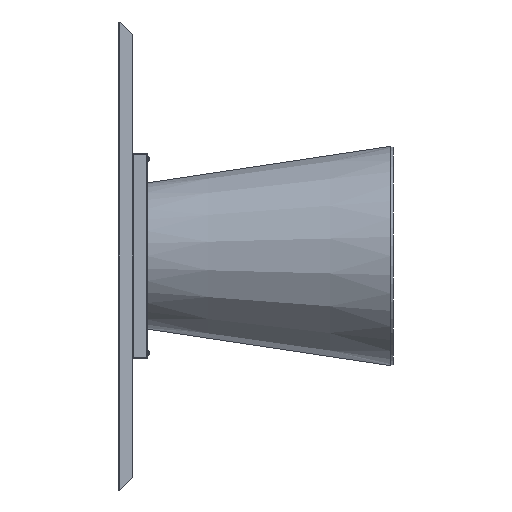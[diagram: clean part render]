
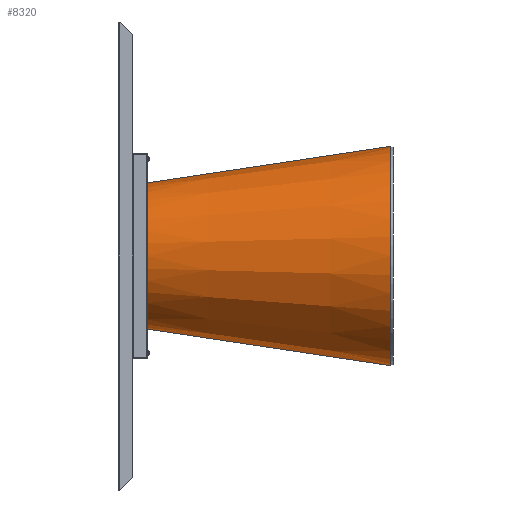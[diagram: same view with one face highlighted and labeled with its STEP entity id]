
A CAD part, left-side view. The second image highlights one B-rep face of the part: STEP entity #8320.
In plain terms, the highlighted conical face has half-angle 8.552 degrees and reference radius 200 mm.
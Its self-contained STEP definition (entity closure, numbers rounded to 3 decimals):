
#163 = DIRECTION ( 'NONE',  ( 0., 0., 1. ) ) ;
#338 = CARTESIAN_POINT ( 'NONE',  ( 0., 8., -300. ) ) ;
#664 = LINE ( 'NONE', #10996, #5974 ) ;
#1561 = ORIENTED_EDGE ( 'NONE', *, *, #9048, .F. ) ;
#1631 = AXIS2_PLACEMENT_3D ( 'NONE', #10192, #2269, #163 ) ;
#2269 = DIRECTION ( 'NONE',  ( 0., 1., 0. ) ) ;
#2490 = VERTEX_POINT ( 'NONE', #8685 ) ;
#2580 = EDGE_CURVE ( 'NONE', #9042, #2490, #5905, .T. ) ;
#2654 = DIRECTION ( 'NONE',  ( 0., 0., 1. ) ) ;
#2669 = EDGE_CURVE ( 'NONE', #5935, #2490, #3886, .T. ) ;
#3235 = AXIS2_PLACEMENT_3D ( 'NONE', #11798, #13069, #2654 ) ;
#3610 = DIRECTION ( 'NONE',  ( 0., -1., 0. ) ) ;
#3886 = LINE ( 'NONE', #9347, #13108 ) ;
#4524 = CARTESIAN_POINT ( 'NONE',  ( 0., 673., 200. ) ) ;
#4793 = EDGE_CURVE ( 'NONE', #8196, #9042, #664, .T. ) ;
#5035 = FACE_OUTER_BOUND ( 'NONE', #12720, .T. ) ;
#5852 = CIRCLE ( 'NONE', #3235, 200. ) ;
#5905 = CIRCLE ( 'NONE', #1631, 300. ) ;
#5935 = VERTEX_POINT ( 'NONE', #4524 ) ;
#5974 = VECTOR ( 'NONE', #9783, 1000. ) ;
#6307 = AXIS2_PLACEMENT_3D ( 'NONE', #9579, #3610, #7048 ) ;
#7048 = DIRECTION ( 'NONE',  ( 0., 0., -1. ) ) ;
#7105 = DIRECTION ( 'NONE',  ( 0., -0.989, 0.149 ) ) ;
#8196 = VERTEX_POINT ( 'NONE', #12976 ) ;
#8320 = ADVANCED_FACE ( 'NONE', ( #5035 ), #10380, .T. ) ;
#8685 = CARTESIAN_POINT ( 'NONE',  ( 0., 8., 300. ) ) ;
#9042 = VERTEX_POINT ( 'NONE', #338 ) ;
#9048 = EDGE_CURVE ( 'NONE', #8196, #5935, #5852, .T. ) ;
#9347 = CARTESIAN_POINT ( 'NONE',  ( 0., 673., 200. ) ) ;
#9579 = CARTESIAN_POINT ( 'NONE',  ( 0., 673., 0. ) ) ;
#9783 = DIRECTION ( 'NONE',  ( 0., -0.989, -0.149 ) ) ;
#10046 = ORIENTED_EDGE ( 'NONE', *, *, #2669, .F. ) ;
#10192 = CARTESIAN_POINT ( 'NONE',  ( 0., 8., 0. ) ) ;
#10380 = CONICAL_SURFACE ( 'NONE', #6307, 200., 0.149 ) ;
#10742 = ORIENTED_EDGE ( 'NONE', *, *, #4793, .T. ) ;
#10996 = CARTESIAN_POINT ( 'NONE',  ( 0., 673., -200. ) ) ;
#11798 = CARTESIAN_POINT ( 'NONE',  ( 0., 673., 0. ) ) ;
#12720 = EDGE_LOOP ( 'NONE', ( #10046, #1561, #10742, #13335 ) ) ;
#12976 = CARTESIAN_POINT ( 'NONE',  ( 0., 673., -200. ) ) ;
#13069 = DIRECTION ( 'NONE',  ( 0., 1., 0. ) ) ;
#13108 = VECTOR ( 'NONE', #7105, 1000. ) ;
#13335 = ORIENTED_EDGE ( 'NONE', *, *, #2580, .T. ) ;
